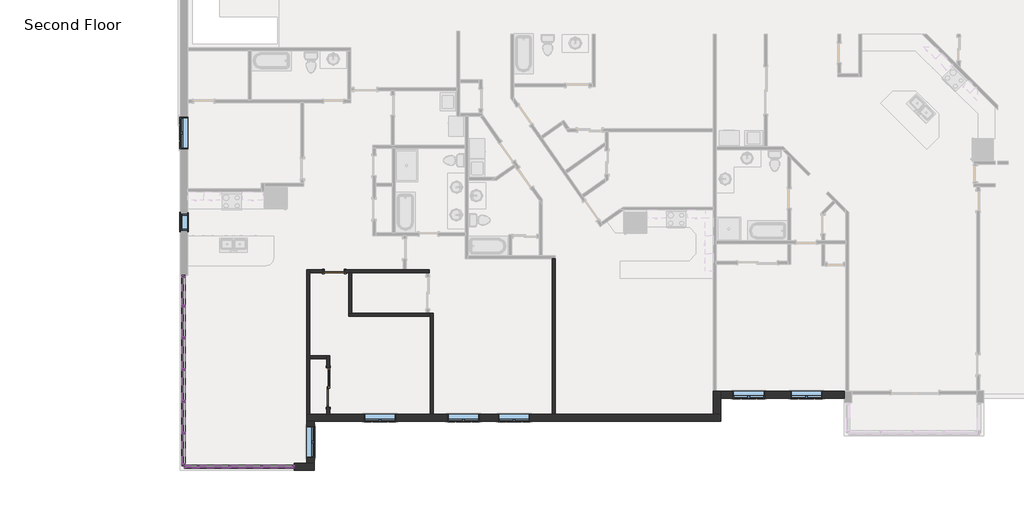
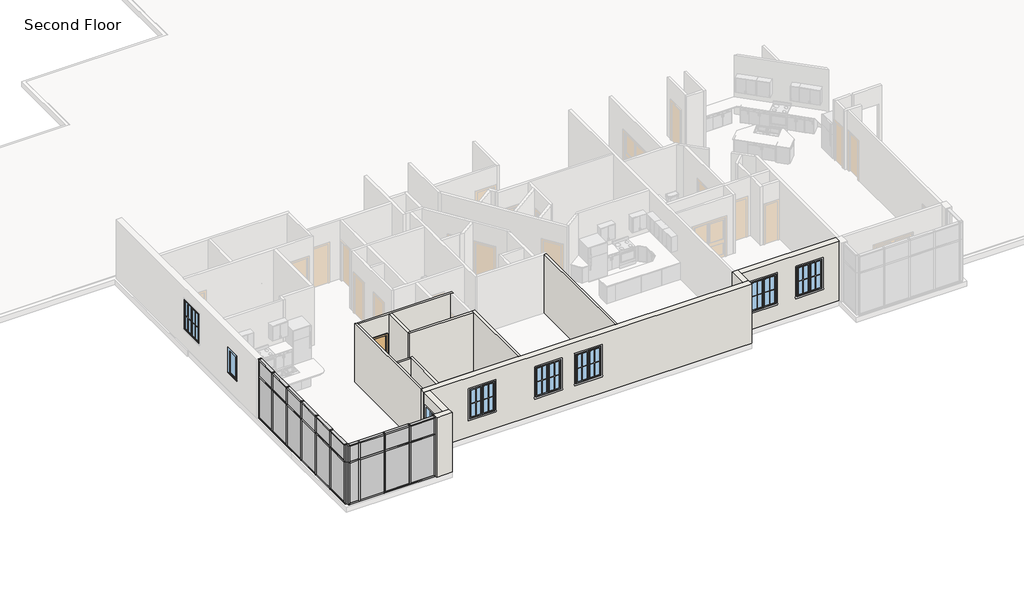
# One storey, part 1 of 17: 54 members, 20 plates, 13 walls, 8 windows, 2 doors.
"""IFC4 building model written with IfcOpenShell, lengths in millimetres."""

from ifc_helpers import new_model, si_unit, frame, origin, place, context, project, spatial, polyline, outline, extrude, faceted_brep, transform, mapped, element, save
from components import door_f2b275c1, door_2e7ec8be, rectangular_mullion_rectangular_mullion_1_c1bf3533, rectangular_mullion_rectangular_mullion_1_fa3625a1, rectangular_mullion_rectangular_mullion_1_a50b3cda, rectangular_mullion_rectangular_mullion_1_5cd4c5ac, rectangular_mullion_rectangular_mullion_1_7cbf0b94, rectangular_mullion_rectangular_mullion_1_1da01dff, rectangular_mullion_rectangular_mullion_1_6186cc23, rectangular_mullion_rectangular_mullion_1_049a2e78, rectangular_mullion_rectangular_mullion_1_fcad50a8, rectangular_mullion_rectangular_mullion_1_aa096312, system_panel_glazed_53e6f9fb, system_panel_glazed_0e039939, system_panel_glazed_cb820e14, system_panel_glazed_5b288161, system_panel_glazed_f20beefc, system_panel_glazed_097fd36c, window_b85827b5, window_33528cc2

model = new_model("IFC4")

# Units and contexts
model_context = context("Model", 3, world=origin())
ifc_project = project(units=[si_unit("LENGTHUNIT", "METRE", prefix="MILLI")], contexts=[model_context])

# Site, building, storey
site = spatial("IfcSite", under=ifc_project)
building = spatial("IfcBuilding", under=site)
storey = spatial("IfcBuildingStorey", under=building, Name="Second Floor", Elevation=3048.0)

# Doors
placement = place(None, origin())
door_shape = door_f2b275c1(model_context)
element("IfcDoor", 1, ObjectType="Single-Flush : 30\" x 80\"", at=placement, inside=storey, context=model_context, shape_type="MappedRepresentation", body=[
    mapped(door_shape, transform((12807.779723, -13829.1071807, 3048.0), x_axis=(1.0, 0.0, 0.0), y_axis=(0.0, 1.0, 0.0), z_axis=(0.0, 0.0, 1.0))),
])
door_2_shape = door_2e7ec8be(model_context)
element("IfcDoor", 2, ObjectType="Sliding-Closet : 60\" x 80\"", at=placement, inside=storey, context=model_context, shape_type="MappedRepresentation", body=[
    mapped(door_2_shape, transform((12448.2103704, -18291.1858961, 3048.0), x_axis=(0.0, -1.0, 0.0), y_axis=(1.0, 0.0, 0.0), z_axis=(0.0, 0.0, 1.0))),
])

# Members
rectangular_mullion_rectangular_mullion_1_shape = rectangular_mullion_rectangular_mullion_1_c1bf3533(model_context)
element("IfcMember", 3, ObjectType="Rectangular Mullion : Rectangular Mullion 1", at=placement, inside=storey, context=model_context, shape_type="MappedRepresentation", body=[
    mapped(rectangular_mullion_rectangular_mullion_1_shape, transform((7097.5509633, -21333.0996067, 6096.0), x_axis=(0.0, 0.0, 1.0), y_axis=(0.0, 1.0, 0.0), z_axis=(-1.0, 0.0, 0.0))),
])
rectangular_mullion_rectangular_mullion_1_2_shape = rectangular_mullion_rectangular_mullion_1_fa3625a1(model_context)
element("IfcMember", 4, ObjectType="Rectangular Mullion : Rectangular Mullion 1", at=placement, inside=storey, context=model_context, shape_type="MappedRepresentation", body=[
    mapped(rectangular_mullion_rectangular_mullion_1_2_shape, transform((10056.650963, -21333.0996067, 6096.0), x_axis=(0.0, 0.0, 1.0), y_axis=(0.0, 1.0, 0.0), z_axis=(-1.0, 0.0, 0.0))),
])
element("IfcMember", 5, ObjectType="Rectangular Mullion : Rectangular Mullion 1", at=placement, inside=storey, context=model_context, shape_type="MappedRepresentation", body=[
    mapped(rectangular_mullion_rectangular_mullion_1_2_shape, transform((8837.450963, -21333.0996067, 6096.0), x_axis=(0.0, 0.0, 1.0), y_axis=(0.0, 1.0, 0.0), z_axis=(-1.0, 0.0, 0.0))),
])
element("IfcMember", 6, ObjectType="Rectangular Mullion : Rectangular Mullion 1", at=placement, inside=storey, context=model_context, shape_type="MappedRepresentation", body=[
    mapped(rectangular_mullion_rectangular_mullion_1_2_shape, transform((7618.250963, -21333.0996067, 6096.0), x_axis=(0.0, 0.0, 1.0), y_axis=(0.0, 1.0, 0.0), z_axis=(-1.0, 0.0, 0.0))),
])
element("IfcMember", 7, ObjectType="Rectangular Mullion : Rectangular Mullion 1", at=placement, inside=storey, context=model_context, shape_type="MappedRepresentation", body=[
    mapped(rectangular_mullion_rectangular_mullion_1_2_shape, transform((7015.0009633, -20069.4496064, 6096.0), x_axis=(0.0, 0.0, 1.0), y_axis=(1.0, 0.0, 0.0), z_axis=(0.0, 1.0, 0.0))),
])
element("IfcMember", 8, ObjectType="Rectangular Mullion : Rectangular Mullion 1", at=placement, inside=storey, context=model_context, shape_type="MappedRepresentation", body=[
    mapped(rectangular_mullion_rectangular_mullion_1_2_shape, transform((7015.0009633, -18850.2496064, 6096.0), x_axis=(0.0, 0.0, 1.0), y_axis=(1.0, 0.0, 0.0), z_axis=(0.0, 1.0, 0.0))),
])
element("IfcMember", 9, ObjectType="Rectangular Mullion : Rectangular Mullion 1", at=placement, inside=storey, context=model_context, shape_type="MappedRepresentation", body=[
    mapped(rectangular_mullion_rectangular_mullion_1_2_shape, transform((7015.0009633, -17631.0496064, 6096.0), x_axis=(0.0, 0.0, 1.0), y_axis=(1.0, 0.0, 0.0), z_axis=(0.0, 1.0, 0.0))),
])
element("IfcMember", 10, ObjectType="Rectangular Mullion : Rectangular Mullion 1", at=placement, inside=storey, context=model_context, shape_type="MappedRepresentation", body=[
    mapped(rectangular_mullion_rectangular_mullion_1_2_shape, transform((7015.0009633, -16411.8496064, 6096.0), x_axis=(0.0, 0.0, 1.0), y_axis=(1.0, 0.0, 0.0), z_axis=(0.0, 1.0, 0.0))),
])
element("IfcMember", 11, ObjectType="Rectangular Mullion : Rectangular Mullion 1", at=placement, inside=storey, context=model_context, shape_type="MappedRepresentation", body=[
    mapped(rectangular_mullion_rectangular_mullion_1_2_shape, transform((7015.0009633, -15192.6496064, 6096.0), x_axis=(0.0, 0.0, 1.0), y_axis=(1.0, 0.0, 0.0), z_axis=(0.0, 1.0, 0.0))),
])
element("IfcMember", 12, ObjectType="Rectangular Mullion : Rectangular Mullion 1", at=placement, inside=storey, context=model_context, shape_type="MappedRepresentation", body=[
    mapped(rectangular_mullion_rectangular_mullion_1_2_shape, transform((11212.3509633, -21333.0996067, 3048.0), x_axis=(0.0, 0.0, -1.0), y_axis=(0.0, 1.0, 0.0), z_axis=(1.0, 0.0, 0.0))),
])
element("IfcMember", 13, ObjectType="Rectangular Mullion : Rectangular Mullion 1", at=placement, inside=storey, context=model_context, shape_type="MappedRepresentation", body=[
    mapped(rectangular_mullion_rectangular_mullion_1_2_shape, transform((9993.150963, -21333.0996067, 3048.0), x_axis=(0.0, 0.0, -1.0), y_axis=(0.0, 1.0, 0.0), z_axis=(1.0, 0.0, 0.0))),
])
element("IfcMember", 14, ObjectType="Rectangular Mullion : Rectangular Mullion 1", at=placement, inside=storey, context=model_context, shape_type="MappedRepresentation", body=[
    mapped(rectangular_mullion_rectangular_mullion_1_2_shape, transform((8773.950963, -21333.0996067, 3048.0), x_axis=(0.0, 0.0, -1.0), y_axis=(0.0, 1.0, 0.0), z_axis=(1.0, 0.0, 0.0))),
])
element("IfcMember", 15, ObjectType="Rectangular Mullion : Rectangular Mullion 1", at=placement, inside=storey, context=model_context, shape_type="MappedRepresentation", body=[
    mapped(rectangular_mullion_rectangular_mullion_1_2_shape, transform((7015.0009633, -21225.1496067, 3048.0), x_axis=(0.0, 0.0, -1.0), y_axis=(1.0, 0.0, 0.0), z_axis=(0.0, -1.0, 0.0))),
])
element("IfcMember", 16, ObjectType="Rectangular Mullion : Rectangular Mullion 1", at=placement, inside=storey, context=model_context, shape_type="MappedRepresentation", body=[
    mapped(rectangular_mullion_rectangular_mullion_1_2_shape, transform((7015.0009633, -20005.9496064, 3048.0), x_axis=(0.0, 0.0, -1.0), y_axis=(1.0, 0.0, 0.0), z_axis=(0.0, -1.0, 0.0))),
])
element("IfcMember", 17, ObjectType="Rectangular Mullion : Rectangular Mullion 1", at=placement, inside=storey, context=model_context, shape_type="MappedRepresentation", body=[
    mapped(rectangular_mullion_rectangular_mullion_1_2_shape, transform((7015.0009633, -18786.7496064, 3048.0), x_axis=(0.0, 0.0, -1.0), y_axis=(1.0, 0.0, 0.0), z_axis=(0.0, -1.0, 0.0))),
])
element("IfcMember", 18, ObjectType="Rectangular Mullion : Rectangular Mullion 1", at=placement, inside=storey, context=model_context, shape_type="MappedRepresentation", body=[
    mapped(rectangular_mullion_rectangular_mullion_1_2_shape, transform((7015.0009633, -17567.5496064, 3048.0), x_axis=(0.0, 0.0, -1.0), y_axis=(1.0, 0.0, 0.0), z_axis=(0.0, -1.0, 0.0))),
])
element("IfcMember", 19, ObjectType="Rectangular Mullion : Rectangular Mullion 1", at=placement, inside=storey, context=model_context, shape_type="MappedRepresentation", body=[
    mapped(rectangular_mullion_rectangular_mullion_1_2_shape, transform((7015.0009633, -16348.3496064, 3048.0), x_axis=(0.0, 0.0, -1.0), y_axis=(1.0, 0.0, 0.0), z_axis=(0.0, -1.0, 0.0))),
])
element("IfcMember", 20, ObjectType="Rectangular Mullion : Rectangular Mullion 1", at=placement, inside=storey, context=model_context, shape_type="MappedRepresentation", body=[
    mapped(rectangular_mullion_rectangular_mullion_1_shape, transform((7554.750963, -21333.0996067, 3048.0), x_axis=(0.0, 0.0, -1.0), y_axis=(0.0, 1.0, 0.0), z_axis=(1.0, 0.0, 0.0))),
])
rectangular_mullion_rectangular_mullion_1_3_shape = rectangular_mullion_rectangular_mullion_1_a50b3cda(model_context)
element("IfcMember", 21, ObjectType="Rectangular Mullion : Rectangular Mullion 1", at=placement, inside=storey, context=model_context, shape_type="MappedRepresentation", body=[
    mapped(rectangular_mullion_rectangular_mullion_1_3_shape, transform((7034.0509633, -21333.0996067, 3048.0), x_axis=(-1.0, 0.0, 0.0), y_axis=(0.0, 1.0, 0.0), z_axis=(0.0, 0.0, -1.0))),
])
element("IfcMember", 22, ObjectType="Rectangular Mullion : Rectangular Mullion 1", at=placement, inside=storey, context=model_context, shape_type="MappedRepresentation", body=[
    mapped(rectangular_mullion_rectangular_mullion_1_3_shape, transform((7015.0009633, -13981.3871067, 3048.0), x_axis=(0.0, 1.0, 0.0), y_axis=(1.0, 0.0, 0.0), z_axis=(0.0, 0.0, -1.0))),
])
rectangular_mullion_rectangular_mullion_1_4_shape = rectangular_mullion_rectangular_mullion_1_5cd4c5ac(model_context)
element("IfcMember", 23, ObjectType="Rectangular Mullion : Rectangular Mullion 1", at=placement, inside=storey, context=model_context, shape_type="MappedRepresentation", body=[
    mapped(rectangular_mullion_rectangular_mullion_1_4_shape, transform((7034.0509633, -21333.0996067, 5213.35), x_axis=(-1.0, 0.0, 0.0), y_axis=(0.0, 1.0, 0.0), z_axis=(0.0, 0.0, -1.0))),
])
element("IfcMember", 24, ObjectType="Rectangular Mullion : Rectangular Mullion 1", at=placement, inside=storey, context=model_context, shape_type="MappedRepresentation", body=[
    mapped(rectangular_mullion_rectangular_mullion_1_4_shape, transform((7015.0009633, -13981.3871067, 5213.35), x_axis=(0.0, 1.0, 0.0), y_axis=(1.0, 0.0, 0.0), z_axis=(0.0, 0.0, -1.0))),
])
element("IfcMember", 25, ObjectType="Rectangular Mullion : Rectangular Mullion 1", at=placement, inside=storey, context=model_context, shape_type="MappedRepresentation", body=[
    mapped(rectangular_mullion_rectangular_mullion_1_4_shape, transform((11275.8509633, -21333.0996067, 6096.0), x_axis=(1.0, 0.0, 0.0), y_axis=(0.0, 1.0, 0.0), z_axis=(0.0, 0.0, 1.0))),
])
element("IfcMember", 26, ObjectType="Rectangular Mullion : Rectangular Mullion 1", at=placement, inside=storey, context=model_context, shape_type="MappedRepresentation", body=[
    mapped(rectangular_mullion_rectangular_mullion_1_4_shape, transform((7015.0009633, -21288.6496067, 6096.0), x_axis=(0.0, -1.0, 0.0), y_axis=(1.0, 0.0, 0.0), z_axis=(0.0, 0.0, 1.0))),
])
element("IfcMember", 27, ObjectType="Rectangular Mullion : Rectangular Mullion 1", at=placement, inside=storey, context=model_context, shape_type="MappedRepresentation", body=[
    mapped(rectangular_mullion_rectangular_mullion_1_3_shape, transform((11275.8509633, -21333.0996067, 5213.35), x_axis=(1.0, 0.0, 0.0), y_axis=(0.0, 1.0, 0.0), z_axis=(0.0, 0.0, 1.0))),
])
element("IfcMember", 28, ObjectType="Rectangular Mullion : Rectangular Mullion 1", at=placement, inside=storey, context=model_context, shape_type="MappedRepresentation", body=[
    mapped(rectangular_mullion_rectangular_mullion_1_3_shape, transform((7015.0009633, -21288.6496067, 5213.35), x_axis=(0.0, -1.0, 0.0), y_axis=(1.0, 0.0, 0.0), z_axis=(0.0, 0.0, 1.0))),
])
rectangular_mullion_rectangular_mullion_1_5_shape = rectangular_mullion_rectangular_mullion_1_7cbf0b94(model_context)
element("IfcMember", 29, ObjectType="Rectangular Mullion : Rectangular Mullion 1", at=placement, inside=storey, context=model_context, shape_type="MappedRepresentation", body=[
    mapped(rectangular_mullion_rectangular_mullion_1_5_shape, transform((10056.650963, -21333.0996067, 5213.35), x_axis=(0.0, 0.0, 1.0), y_axis=(0.0, 1.0, 0.0), z_axis=(-1.0, 0.0, 0.0))),
])
element("IfcMember", 30, ObjectType="Rectangular Mullion : Rectangular Mullion 1", at=placement, inside=storey, context=model_context, shape_type="MappedRepresentation", body=[
    mapped(rectangular_mullion_rectangular_mullion_1_5_shape, transform((8837.450963, -21333.0996067, 5213.35), x_axis=(0.0, 0.0, 1.0), y_axis=(0.0, 1.0, 0.0), z_axis=(-1.0, 0.0, 0.0))),
])
element("IfcMember", 31, ObjectType="Rectangular Mullion : Rectangular Mullion 1", at=placement, inside=storey, context=model_context, shape_type="MappedRepresentation", body=[
    mapped(rectangular_mullion_rectangular_mullion_1_5_shape, transform((7618.250963, -21333.0996067, 5213.35), x_axis=(0.0, 0.0, 1.0), y_axis=(0.0, 1.0, 0.0), z_axis=(-1.0, 0.0, 0.0))),
])
element("IfcMember", 32, ObjectType="Rectangular Mullion : Rectangular Mullion 1", at=placement, inside=storey, context=model_context, shape_type="MappedRepresentation", body=[
    mapped(rectangular_mullion_rectangular_mullion_1_5_shape, transform((7015.0009633, -20069.4496064, 5213.35), x_axis=(0.0, 0.0, 1.0), y_axis=(1.0, 0.0, 0.0), z_axis=(0.0, 1.0, 0.0))),
])
element("IfcMember", 33, ObjectType="Rectangular Mullion : Rectangular Mullion 1", at=placement, inside=storey, context=model_context, shape_type="MappedRepresentation", body=[
    mapped(rectangular_mullion_rectangular_mullion_1_5_shape, transform((7015.0009633, -18850.2496064, 5213.35), x_axis=(0.0, 0.0, 1.0), y_axis=(1.0, 0.0, 0.0), z_axis=(0.0, 1.0, 0.0))),
])
element("IfcMember", 34, ObjectType="Rectangular Mullion : Rectangular Mullion 1", at=placement, inside=storey, context=model_context, shape_type="MappedRepresentation", body=[
    mapped(rectangular_mullion_rectangular_mullion_1_5_shape, transform((7015.0009633, -17631.0496064, 5213.35), x_axis=(0.0, 0.0, 1.0), y_axis=(1.0, 0.0, 0.0), z_axis=(0.0, 1.0, 0.0))),
])
element("IfcMember", 35, ObjectType="Rectangular Mullion : Rectangular Mullion 1", at=placement, inside=storey, context=model_context, shape_type="MappedRepresentation", body=[
    mapped(rectangular_mullion_rectangular_mullion_1_5_shape, transform((7015.0009633, -16411.8496064, 5213.35), x_axis=(0.0, 0.0, 1.0), y_axis=(1.0, 0.0, 0.0), z_axis=(0.0, 1.0, 0.0))),
])
element("IfcMember", 36, ObjectType="Rectangular Mullion : Rectangular Mullion 1", at=placement, inside=storey, context=model_context, shape_type="MappedRepresentation", body=[
    mapped(rectangular_mullion_rectangular_mullion_1_5_shape, transform((7015.0009633, -15192.6496064, 5213.35), x_axis=(0.0, 0.0, 1.0), y_axis=(1.0, 0.0, 0.0), z_axis=(0.0, 1.0, 0.0))),
])
rectangular_mullion_rectangular_mullion_1_6_shape = rectangular_mullion_rectangular_mullion_1_1da01dff(model_context)
element("IfcMember", 37, ObjectType="Rectangular Mullion : Rectangular Mullion 1", at=placement, inside=storey, context=model_context, shape_type="MappedRepresentation", body=[
    mapped(rectangular_mullion_rectangular_mullion_1_6_shape, transform((7097.5509633, -21333.0996067, 5213.35), x_axis=(0.0, 0.0, 1.0), y_axis=(0.0, 1.0, 0.0), z_axis=(-1.0, 0.0, 0.0))),
])
rectangular_mullion_rectangular_mullion_1_7_shape = rectangular_mullion_rectangular_mullion_1_6186cc23(model_context)
element("IfcMember", 38, ObjectType="Rectangular Mullion : Rectangular Mullion 1", at=placement, inside=storey, context=model_context, shape_type="MappedRepresentation", body=[
    mapped(rectangular_mullion_rectangular_mullion_1_7_shape, transform((10024.900963, -21333.0996067, 3048.0), x_axis=(-1.0, 0.0, 0.0), y_axis=(0.0, 1.0, 0.0), z_axis=(0.0, 0.0, -1.0))),
])
element("IfcMember", 39, ObjectType="Rectangular Mullion : Rectangular Mullion 1", at=placement, inside=storey, context=model_context, shape_type="MappedRepresentation", body=[
    mapped(rectangular_mullion_rectangular_mullion_1_7_shape, transform((8805.700963, -21333.0996067, 3048.0), x_axis=(-1.0, 0.0, 0.0), y_axis=(0.0, 1.0, 0.0), z_axis=(0.0, 0.0, -1.0))),
])
element("IfcMember", 40, ObjectType="Rectangular Mullion : Rectangular Mullion 1", at=placement, inside=storey, context=model_context, shape_type="MappedRepresentation", body=[
    mapped(rectangular_mullion_rectangular_mullion_1_7_shape, transform((7586.500963, -21333.0996067, 3048.0), x_axis=(-1.0, 0.0, 0.0), y_axis=(0.0, 1.0, 0.0), z_axis=(0.0, 0.0, -1.0))),
])
element("IfcMember", 41, ObjectType="Rectangular Mullion : Rectangular Mullion 1", at=placement, inside=storey, context=model_context, shape_type="MappedRepresentation", body=[
    mapped(rectangular_mullion_rectangular_mullion_1_7_shape, transform((7015.0009633, -20037.6996064, 3048.0), x_axis=(0.0, 1.0, 0.0), y_axis=(1.0, 0.0, 0.0), z_axis=(0.0, 0.0, -1.0))),
])
element("IfcMember", 42, ObjectType="Rectangular Mullion : Rectangular Mullion 1", at=placement, inside=storey, context=model_context, shape_type="MappedRepresentation", body=[
    mapped(rectangular_mullion_rectangular_mullion_1_7_shape, transform((7015.0009633, -18818.4996064, 3048.0), x_axis=(0.0, 1.0, 0.0), y_axis=(1.0, 0.0, 0.0), z_axis=(0.0, 0.0, -1.0))),
])
element("IfcMember", 43, ObjectType="Rectangular Mullion : Rectangular Mullion 1", at=placement, inside=storey, context=model_context, shape_type="MappedRepresentation", body=[
    mapped(rectangular_mullion_rectangular_mullion_1_7_shape, transform((7015.0009633, -17599.2996064, 3048.0), x_axis=(0.0, 1.0, 0.0), y_axis=(1.0, 0.0, 0.0), z_axis=(0.0, 0.0, -1.0))),
])
element("IfcMember", 44, ObjectType="Rectangular Mullion : Rectangular Mullion 1", at=placement, inside=storey, context=model_context, shape_type="MappedRepresentation", body=[
    mapped(rectangular_mullion_rectangular_mullion_1_7_shape, transform((7015.0009633, -16380.0996064, 3048.0), x_axis=(0.0, 1.0, 0.0), y_axis=(1.0, 0.0, 0.0), z_axis=(0.0, 0.0, -1.0))),
])
element("IfcMember", 45, ObjectType="Rectangular Mullion : Rectangular Mullion 1", at=placement, inside=storey, context=model_context, shape_type="MappedRepresentation", body=[
    mapped(rectangular_mullion_rectangular_mullion_1_7_shape, transform((7015.0009633, -15160.8996064, 3048.0), x_axis=(0.0, 1.0, 0.0), y_axis=(1.0, 0.0, 0.0), z_axis=(0.0, 0.0, -1.0))),
])
rectangular_mullion_rectangular_mullion_1_8_shape = rectangular_mullion_rectangular_mullion_1_049a2e78(model_context)
element("IfcMember", 46, ObjectType="Rectangular Mullion : Rectangular Mullion 1", at=placement, inside=storey, context=model_context, shape_type="MappedRepresentation", body=[
    mapped(rectangular_mullion_rectangular_mullion_1_8_shape, transform((10024.900963, -21333.0996067, 5213.35), x_axis=(-1.0, 0.0, 0.0), y_axis=(0.0, 1.0, 0.0), z_axis=(0.0, 0.0, -1.0))),
])
element("IfcMember", 47, ObjectType="Rectangular Mullion : Rectangular Mullion 1", at=placement, inside=storey, context=model_context, shape_type="MappedRepresentation", body=[
    mapped(rectangular_mullion_rectangular_mullion_1_8_shape, transform((8805.700963, -21333.0996067, 5213.35), x_axis=(-1.0, 0.0, 0.0), y_axis=(0.0, 1.0, 0.0), z_axis=(0.0, 0.0, -1.0))),
])
element("IfcMember", 48, ObjectType="Rectangular Mullion : Rectangular Mullion 1", at=placement, inside=storey, context=model_context, shape_type="MappedRepresentation", body=[
    mapped(rectangular_mullion_rectangular_mullion_1_8_shape, transform((7586.500963, -21333.0996067, 5213.35), x_axis=(-1.0, 0.0, 0.0), y_axis=(0.0, 1.0, 0.0), z_axis=(0.0, 0.0, -1.0))),
])
element("IfcMember", 49, ObjectType="Rectangular Mullion : Rectangular Mullion 1", at=placement, inside=storey, context=model_context, shape_type="MappedRepresentation", body=[
    mapped(rectangular_mullion_rectangular_mullion_1_8_shape, transform((7015.0009633, -20037.6996064, 5213.35), x_axis=(0.0, 1.0, 0.0), y_axis=(1.0, 0.0, 0.0), z_axis=(0.0, 0.0, -1.0))),
])
element("IfcMember", 50, ObjectType="Rectangular Mullion : Rectangular Mullion 1", at=placement, inside=storey, context=model_context, shape_type="MappedRepresentation", body=[
    mapped(rectangular_mullion_rectangular_mullion_1_8_shape, transform((7015.0009633, -18818.4996064, 5213.35), x_axis=(0.0, 1.0, 0.0), y_axis=(1.0, 0.0, 0.0), z_axis=(0.0, 0.0, -1.0))),
])
element("IfcMember", 51, ObjectType="Rectangular Mullion : Rectangular Mullion 1", at=placement, inside=storey, context=model_context, shape_type="MappedRepresentation", body=[
    mapped(rectangular_mullion_rectangular_mullion_1_8_shape, transform((7015.0009633, -17599.2996064, 5213.35), x_axis=(0.0, 1.0, 0.0), y_axis=(1.0, 0.0, 0.0), z_axis=(0.0, 0.0, -1.0))),
])
element("IfcMember", 52, ObjectType="Rectangular Mullion : Rectangular Mullion 1", at=placement, inside=storey, context=model_context, shape_type="MappedRepresentation", body=[
    mapped(rectangular_mullion_rectangular_mullion_1_8_shape, transform((7015.0009633, -16380.0996064, 5213.35), x_axis=(0.0, 1.0, 0.0), y_axis=(1.0, 0.0, 0.0), z_axis=(0.0, 0.0, -1.0))),
])
element("IfcMember", 53, ObjectType="Rectangular Mullion : Rectangular Mullion 1", at=placement, inside=storey, context=model_context, shape_type="MappedRepresentation", body=[
    mapped(rectangular_mullion_rectangular_mullion_1_8_shape, transform((7015.0009633, -15160.8996064, 5213.35), x_axis=(0.0, 1.0, 0.0), y_axis=(1.0, 0.0, 0.0), z_axis=(0.0, 0.0, -1.0))),
])
rectangular_mullion_rectangular_mullion_1_9_shape = rectangular_mullion_rectangular_mullion_1_fcad50a8(model_context)
element("IfcMember", 54, ObjectType="Rectangular Mullion : Rectangular Mullion 1", at=placement, inside=storey, context=model_context, shape_type="MappedRepresentation", body=[
    mapped(rectangular_mullion_rectangular_mullion_1_9_shape, transform((7015.0009633, -14044.8871067, 6096.0), x_axis=(0.0, 0.0, 1.0), y_axis=(1.0, 0.0, 0.0), z_axis=(0.0, 1.0, 0.0))),
])
element("IfcMember", 55, ObjectType="Rectangular Mullion : Rectangular Mullion 1", at=placement, inside=storey, context=model_context, shape_type="MappedRepresentation", body=[
    mapped(rectangular_mullion_rectangular_mullion_1_9_shape, transform((7015.0009633, -15129.1496064, 3048.0), x_axis=(0.0, 0.0, -1.0), y_axis=(1.0, 0.0, 0.0), z_axis=(0.0, -1.0, 0.0))),
])
rectangular_mullion_rectangular_mullion_1_10_shape = rectangular_mullion_rectangular_mullion_1_aa096312(model_context)
element("IfcMember", 56, ObjectType="Rectangular Mullion : Rectangular Mullion 1", at=placement, inside=storey, context=model_context, shape_type="MappedRepresentation", body=[
    mapped(rectangular_mullion_rectangular_mullion_1_10_shape, transform((7015.0009633, -14044.8871067, 5213.35), x_axis=(0.0, 0.0, 1.0), y_axis=(1.0, 0.0, 0.0), z_axis=(0.0, 1.0, 0.0))),
])

# Plates
system_panel_glazed_shape = system_panel_glazed_53e6f9fb(model_context)
element("IfcPlate", 57, ObjectType="System Panel : Glazed", at=placement, inside=storey, context=model_context, shape_type="MappedRepresentation", body=[
    mapped(system_panel_glazed_shape, transform((10634.5009632, -21333.0996067, 3111.5), x_axis=(-1.0, 0.0, 0.0), y_axis=(0.0, -1.0, 0.0), z_axis=(0.0, 0.0, 1.0))),
])
element("IfcPlate", 58, ObjectType="System Panel : Glazed", at=placement, inside=storey, context=model_context, shape_type="MappedRepresentation", body=[
    mapped(system_panel_glazed_shape, transform((7015.0009633, -20647.2996066, 3111.5), x_axis=(0.0, 1.0, 0.0), y_axis=(-1.0, 0.0, 0.0), z_axis=(0.0, 0.0, 1.0))),
])
element("IfcPlate", 59, ObjectType="System Panel : Glazed", at=placement, inside=storey, context=model_context, shape_type="MappedRepresentation", body=[
    mapped(system_panel_glazed_shape, transform((9415.300963, -21333.0996067, 3111.5), x_axis=(-1.0, 0.0, 0.0), y_axis=(0.0, -1.0, 0.0), z_axis=(0.0, 0.0, 1.0))),
])
element("IfcPlate", 60, ObjectType="System Panel : Glazed", at=placement, inside=storey, context=model_context, shape_type="MappedRepresentation", body=[
    mapped(system_panel_glazed_shape, transform((8196.100963, -21333.0996067, 3111.5), x_axis=(-1.0, 0.0, 0.0), y_axis=(0.0, -1.0, 0.0), z_axis=(0.0, 0.0, 1.0))),
])
element("IfcPlate", 61, ObjectType="System Panel : Glazed", at=placement, inside=storey, context=model_context, shape_type="MappedRepresentation", body=[
    mapped(system_panel_glazed_shape, transform((7015.0009633, -19428.0996064, 3111.5), x_axis=(0.0, 1.0, 0.0), y_axis=(-1.0, 0.0, 0.0), z_axis=(0.0, 0.0, 1.0))),
])
element("IfcPlate", 62, ObjectType="System Panel : Glazed", at=placement, inside=storey, context=model_context, shape_type="MappedRepresentation", body=[
    mapped(system_panel_glazed_shape, transform((7015.0009633, -18208.8996064, 3111.5), x_axis=(0.0, 1.0, 0.0), y_axis=(-1.0, 0.0, 0.0), z_axis=(0.0, 0.0, 1.0))),
])
element("IfcPlate", 63, ObjectType="System Panel : Glazed", at=placement, inside=storey, context=model_context, shape_type="MappedRepresentation", body=[
    mapped(system_panel_glazed_shape, transform((7015.0009633, -16989.6996064, 3111.5), x_axis=(0.0, 1.0, 0.0), y_axis=(-1.0, 0.0, 0.0), z_axis=(0.0, 0.0, 1.0))),
])
element("IfcPlate", 64, ObjectType="System Panel : Glazed", at=placement, inside=storey, context=model_context, shape_type="MappedRepresentation", body=[
    mapped(system_panel_glazed_shape, transform((7015.0009633, -15770.4996064, 3111.5), x_axis=(0.0, 1.0, 0.0), y_axis=(-1.0, 0.0, 0.0), z_axis=(0.0, 0.0, 1.0))),
])
system_panel_glazed_2_shape = system_panel_glazed_0e039939(model_context)
element("IfcPlate", 65, ObjectType="System Panel : Glazed", at=placement, inside=storey, context=model_context, shape_type="MappedRepresentation", body=[
    mapped(system_panel_glazed_2_shape, transform((7326.1509632, -21333.0996067, 3111.5), x_axis=(-1.0, 0.0, 0.0), y_axis=(0.0, -1.0, 0.0), z_axis=(0.0, 0.0, 1.0))),
])
system_panel_glazed_3_shape = system_panel_glazed_cb820e14(model_context)
element("IfcPlate", 66, ObjectType="System Panel : Glazed", at=placement, inside=storey, context=model_context, shape_type="MappedRepresentation", body=[
    mapped(system_panel_glazed_3_shape, transform((10634.5009632, -21333.0996067, 5245.1), x_axis=(-1.0, 0.0, 0.0), y_axis=(0.0, -1.0, 0.0), z_axis=(0.0, 0.0, 1.0))),
])
element("IfcPlate", 67, ObjectType="System Panel : Glazed", at=placement, inside=storey, context=model_context, shape_type="MappedRepresentation", body=[
    mapped(system_panel_glazed_3_shape, transform((9415.300963, -21333.0996067, 5245.1), x_axis=(-1.0, 0.0, 0.0), y_axis=(0.0, -1.0, 0.0), z_axis=(0.0, 0.0, 1.0))),
])
element("IfcPlate", 68, ObjectType="System Panel : Glazed", at=placement, inside=storey, context=model_context, shape_type="MappedRepresentation", body=[
    mapped(system_panel_glazed_3_shape, transform((8196.100963, -21333.0996067, 5245.1), x_axis=(-1.0, 0.0, 0.0), y_axis=(0.0, -1.0, 0.0), z_axis=(0.0, 0.0, 1.0))),
])
element("IfcPlate", 69, ObjectType="System Panel : Glazed", at=placement, inside=storey, context=model_context, shape_type="MappedRepresentation", body=[
    mapped(system_panel_glazed_3_shape, transform((7015.0009633, -20647.2996066, 5245.1), x_axis=(0.0, 1.0, 0.0), y_axis=(-1.0, 0.0, 0.0), z_axis=(0.0, 0.0, 1.0))),
])
element("IfcPlate", 70, ObjectType="System Panel : Glazed", at=placement, inside=storey, context=model_context, shape_type="MappedRepresentation", body=[
    mapped(system_panel_glazed_3_shape, transform((7015.0009633, -19428.0996064, 5245.1), x_axis=(0.0, 1.0, 0.0), y_axis=(-1.0, 0.0, 0.0), z_axis=(0.0, 0.0, 1.0))),
])
element("IfcPlate", 71, ObjectType="System Panel : Glazed", at=placement, inside=storey, context=model_context, shape_type="MappedRepresentation", body=[
    mapped(system_panel_glazed_3_shape, transform((7015.0009633, -18208.8996064, 5245.1), x_axis=(0.0, 1.0, 0.0), y_axis=(-1.0, 0.0, 0.0), z_axis=(0.0, 0.0, 1.0))),
])
element("IfcPlate", 72, ObjectType="System Panel : Glazed", at=placement, inside=storey, context=model_context, shape_type="MappedRepresentation", body=[
    mapped(system_panel_glazed_3_shape, transform((7015.0009633, -16989.6996064, 5245.1), x_axis=(0.0, 1.0, 0.0), y_axis=(-1.0, 0.0, 0.0), z_axis=(0.0, 0.0, 1.0))),
])
element("IfcPlate", 73, ObjectType="System Panel : Glazed", at=placement, inside=storey, context=model_context, shape_type="MappedRepresentation", body=[
    mapped(system_panel_glazed_3_shape, transform((7015.0009633, -15770.4996064, 5245.1), x_axis=(0.0, 1.0, 0.0), y_axis=(-1.0, 0.0, 0.0), z_axis=(0.0, 0.0, 1.0))),
])
system_panel_glazed_4_shape = system_panel_glazed_5b288161(model_context)
element("IfcPlate", 74, ObjectType="System Panel : Glazed", at=placement, inside=storey, context=model_context, shape_type="MappedRepresentation", body=[
    mapped(system_panel_glazed_4_shape, transform((7326.1509632, -21333.0996067, 5245.1), x_axis=(-1.0, 0.0, 0.0), y_axis=(0.0, -1.0, 0.0), z_axis=(0.0, 0.0, 1.0))),
])
system_panel_glazed_5_shape = system_panel_glazed_f20beefc(model_context)
element("IfcPlate", 75, ObjectType="System Panel : Glazed", at=placement, inside=storey, context=model_context, shape_type="MappedRepresentation", body=[
    mapped(system_panel_glazed_5_shape, transform((7015.0009633, -14587.0183566, 3111.5), x_axis=(0.0, 1.0, 0.0), y_axis=(-1.0, 0.0, 0.0), z_axis=(0.0, 0.0, 1.0))),
])
system_panel_glazed_6_shape = system_panel_glazed_097fd36c(model_context)
element("IfcPlate", 76, ObjectType="System Panel : Glazed", at=placement, inside=storey, context=model_context, shape_type="MappedRepresentation", body=[
    mapped(system_panel_glazed_6_shape, transform((7015.0009633, -14587.0183566, 5245.1), x_axis=(0.0, 1.0, 0.0), y_axis=(-1.0, 0.0, 0.0), z_axis=(0.0, 0.0, 1.0))),
])

# Walls
element("IfcWall", 77, ObjectType="Exterior - Brick on Wood Stud", at=placement, inside=storey, context=model_context, shape_type="Brep", body=[
    faceted_brep([(12033.0884633, -21191.8121067, 3048.0), (11750.5134633, -21191.8121067, 3048.0), (11275.8509633, -21191.8121067, 3048.0), (11275.8509633, -21191.8121067, 6096.0), (11750.5134633, -21191.8121067, 6096.0), (12033.0884633, -21191.8121067, 6096.0), (12033.0884633, -21474.3871067, 3048.0), (12033.0884633, -21474.3871067, 6096.0), (11275.8509633, -21474.3871067, 6096.0), (11275.8509633, -21474.3871067, 3048.0)], [[[0, 1, 2, 3, 4, 5]], [[6, 7, 8, 9]], [[2, 1, 0, 6, 9]], [[3, 2, 9, 8]], [[5, 4, 3, 8, 7]], [[0, 5, 7, 6]]]),
])
element("IfcWall", 78, ObjectType="Exterior - Brick on Wood Stud", at=placement, inside=storey, context=model_context, shape_type="Brep", body=[
    faceted_brep([(27656.3115862, -19313.2865506, 3048.0), (27373.7365862, -19313.2865506, 3048.0), (21299.9615862, -19313.2865506, 3048.0), (21185.6615862, -19313.2865506, 3048.0), (16611.410372, -19313.2865506, 3048.0), (16497.110372, -19313.2865506, 3048.0), (12632.3603704, -19313.2865506, 3048.0), (12518.0603704, -19313.2865506, 3048.0), (11864.8134633, -19313.2865506, 3048.0), (11750.5134633, -19313.2865506, 3048.0), (11750.5134633, -19313.2865506, 6096.0), (11864.8134633, -19313.2865506, 6096.0), (12518.0603704, -19313.2865506, 6096.0), (12632.3603704, -19313.2865506, 6096.0), (16497.110372, -19313.2865506, 6096.0), (16611.410372, -19313.2865506, 6096.0), (21185.6615862, -19313.2865506, 6096.0), (21299.9615862, -19313.2865506, 6096.0), (27373.7365862, -19313.2865506, 6096.0), (27656.3115862, -19313.2865506, 6096.0), (19109.2115862, -19313.2865506, 5486.4), (19109.2115862, -19313.2865506, 3962.4), (20328.4115862, -19313.2865506, 3962.4), (20328.4115862, -19313.2865506, 5486.4), (13955.1353712, -19313.2865506, 5486.4), (13955.1353712, -19313.2865506, 3962.4), (15174.3353712, -19313.2865506, 3962.4), (15174.3353712, -19313.2865506, 5486.4), (17163.860372, -19313.2865506, 5486.4), (17163.860372, -19313.2865506, 3962.4), (18383.060372, -19313.2865506, 3962.4), (18383.060372, -19313.2865506, 5486.4), (27656.3115862, -19595.8615506, 3048.0), (27656.3115862, -19595.8615506, 6096.0), (12033.0884633, -19595.8615506, 6096.0), (11750.5134633, -19595.8615506, 6096.0), (11750.5134633, -19595.8615506, 3048.0), (12033.0884633, -19595.8615506, 3048.0), (19109.2115862, -19595.8615506, 5486.4), (20328.4115862, -19595.8615506, 5486.4), (20328.4115862, -19595.8615506, 3962.4), (19109.2115862, -19595.8615506, 3962.4), (13955.1353712, -19595.8615506, 5486.4), (15174.3353712, -19595.8615506, 5486.4), (15174.3353712, -19595.8615506, 3962.4), (13955.1353712, -19595.8615506, 3962.4), (17163.860372, -19595.8615506, 5486.4), (18383.060372, -19595.8615506, 5486.4), (18383.060372, -19595.8615506, 3962.4), (17163.860372, -19595.8615506, 3962.4)], [[[0, 1, 2, 3, 4, 5, 6, 7, 8, 9, 10, 11, 12, 13, 14, 15, 16, 17, 18, 19], [20, 21, 22, 23], [24, 25, 26, 27], [28, 29, 30, 31]], [[32, 33, 34, 35, 36, 37], [38, 39, 40, 41], [42, 43, 44, 45], [46, 47, 48, 49]], [[21, 20, 38, 41]], [[22, 21, 41, 40]], [[23, 22, 40, 39]], [[20, 23, 39, 38]], [[25, 24, 42, 45]], [[26, 25, 45, 44]], [[27, 26, 44, 43]], [[24, 27, 43, 42]], [[29, 28, 46, 49]], [[30, 29, 49, 48]], [[31, 30, 48, 47]], [[28, 31, 47, 46]], [[9, 8, 7, 6, 5, 4, 3, 2, 1, 0, 32, 37, 36]], [[19, 18, 17, 16, 15, 14, 13, 12, 11, 10, 35, 34, 33]], [[0, 19, 33, 32]], [[10, 9, 36, 35]]]),
])
element("IfcWall", 79, ObjectType="Exterior - Brick on Wood Stud", at=placement, inside=storey, context=model_context, shape_type="Brep", body=[
    faceted_brep([(27656.3115862, -19313.2865506, 3048.0), (27656.3115862, -18708.8441587, 3048.0), (27656.3115862, -18426.2691587, 3048.0), (27656.3115862, -18426.2691587, 6096.0), (27656.3115862, -18708.8441587, 6096.0), (27656.3115862, -19313.2865506, 6096.0), (27373.7365862, -19313.2865506, 3048.0), (27373.7365862, -19313.2865506, 6096.0), (27373.7365862, -18426.2691587, 6096.0), (27373.7365862, -18426.2691587, 3048.0), (27488.0365862, -18426.2691587, 3048.0), (27488.0365862, -18426.2691587, 6096.0)], [[[0, 1, 2, 3, 4, 5]], [[6, 7, 8, 9]], [[2, 1, 0, 6, 9, 10]], [[5, 4, 3, 11, 8, 7]], [[3, 2, 10, 9, 8, 11]], [[0, 5, 7, 6]]]),
])
element("IfcWall", 80, ObjectType="Exterior - Brick on Wood Stud", at=placement, inside=storey, context=model_context, shape_type="SweptSolid", body=[
    extrude(outline(polyline([(-21191.8121067, 3048.0), (-21191.8121067, 6096.0), (-19595.8615506, 6096.0), (-19595.8615506, 3048.0), (-21191.8121067, 3048.0)]), holes=[polyline([(-20990.7368287, 5486.4), (-20990.7368287, 3962.4), (-19771.5368287, 3962.4), (-19771.5368287, 5486.4), (-20990.7368287, 5486.4)])]), frame((11750.5134633, 0.0, 0.0), z_axis=(1.0, 0.0, 0.0), x_axis=(0.0, 1.0, 0.0)), (0.0, 0.0, 1.0), 282.575),
])
element("IfcWall", 81, ObjectType="Exterior - Brick on Wood Stud", at=placement, inside=storey, context=model_context, shape_type="SweptSolid", body=[
    extrude(outline(polyline([(3048.0, 27656.3115862), (3048.0, 32412.3745389), (6096.0, 32412.3745389), (6096.0, 27656.3115862), (3048.0, 27656.3115862)]), holes=[polyline([(5486.4, 28124.6240862), (5486.4, 29343.8240862), (3962.4, 29343.8240862), (3962.4, 28124.6240862), (5486.4, 28124.6240862)]), polyline([(5486.4, 30343.8620389), (5486.4, 31563.0620389), (3962.4, 31563.0620389), (3962.4, 30343.8620389), (5486.4, 30343.8620389)])]), frame((0.0, -18708.8441587, 0.0), z_axis=(0.0, 1.0, 0.0), x_axis=(0.0, 0.0, 1.0)), (0.0, 0.0, 1.0), 282.575),
])
element("IfcWall", 82, ObjectType="Interior - 4 1/2\" Partition", at=placement, inside=storey, context=model_context, shape_type="SweptSolid", body=[
    extrude(outline(polyline([(21185.6615862, -19313.2865506), (21185.6615862, -13350.4704597), (21299.9615862, -13350.4704597), (21299.9615862, -19313.2865506), (21185.6615862, -19313.2865506)])), frame((0.0, 0.0, 3048.0), z_axis=(0.0, 0.0, 1.0), x_axis=(1.0, 0.0, 0.0)), (0.0, 0.0, 1.0), 3048.0),
])
element("IfcWall", 83, ObjectType="Interior - 4 1/2\" Partition", at=placement, inside=storey, context=model_context, shape_type="Brep", body=[
    faceted_brep([(16611.410372, -19313.2865506, 3048.0), (16611.410372, -15440.4282946, 3048.0), (16611.410372, -15440.4282946, 6096.0), (16611.410372, -19313.2865506, 6096.0), (16497.110372, -19313.2865506, 3048.0), (16497.110372, -19313.2865506, 6096.0), (16497.110372, -15554.7282946, 6096.0), (16497.110372, -15440.4282946, 6096.0), (16497.110372, -15440.4282946, 3048.0), (16497.110372, -15554.7282946, 3048.0)], [[[0, 1, 2, 3]], [[4, 5, 6, 7, 8, 9]], [[1, 0, 4, 9, 8]], [[3, 2, 7, 6, 5]], [[2, 1, 8, 7]], [[0, 3, 5, 4]]]),
])
element("IfcWall", 84, ObjectType="Interior - 4 1/2\" Partition", at=placement, inside=storey, context=model_context, shape_type="Brep", body=[
    faceted_brep([(16497.110372, -15440.4282946, 3048.0), (16459.010372, -15440.4282946, 3048.0), (16344.710372, -15440.4282946, 3048.0), (13474.529723, -15440.4282946, 3048.0), (13360.229723, -15440.4282946, 3048.0), (13360.229723, -15440.4282946, 6096.0), (13474.529723, -15440.4282946, 6096.0), (16344.710372, -15440.4282946, 6096.0), (16459.010372, -15440.4282946, 6096.0), (16497.110372, -15440.4282946, 6096.0), (16497.110372, -15554.7282946, 3048.0), (16497.110372, -15554.7282946, 6096.0), (13360.229723, -15554.7282946, 6096.0), (13360.229723, -15554.7282946, 3048.0)], [[[0, 1, 2, 3, 4, 5, 6, 7, 8, 9]], [[10, 11, 12, 13]], [[4, 3, 2, 1, 0, 10, 13]], [[9, 8, 7, 6, 5, 12, 11]], [[5, 4, 13, 12]], [[0, 9, 11, 10]]]),
])
element("IfcWall", 85, ObjectType="Interior - 4 1/2\" Partition", at=placement, inside=storey, context=model_context, shape_type="SweptSolid", body=[
    extrude(outline(polyline([(13474.529723, -13886.2571807), (13474.529723, -15440.4282946), (13360.229723, -15440.4282946), (13360.229723, -13886.2571807), (13474.529723, -13886.2571807)])), frame((0.0, 0.0, 3048.0), z_axis=(0.0, 0.0, 1.0), x_axis=(1.0, 0.0, 0.0)), (0.0, 0.0, 1.0), 3048.0),
])
element("IfcWall", 86, ObjectType="Interior - 4 1/2\" Partition", at=placement, inside=storey, context=model_context, shape_type="Brep", body=[
    faceted_brep([(11864.8134633, -19313.2865506, 3048.0), (11864.8134633, -17184.9477416, 3048.0), (11864.8134633, -17070.6477416, 3048.0), (11864.8134633, -13886.2571807, 3048.0), (11864.8134633, -13771.9571807, 3048.0), (11864.8134633, -13771.9571807, 6096.0), (11864.8134633, -13886.2571807, 6096.0), (11864.8134633, -17070.6477416, 6096.0), (11864.8134633, -17184.9477416, 6096.0), (11864.8134633, -19313.2865506, 6096.0), (11750.5134633, -19313.2865506, 3048.0), (11750.5134633, -19313.2865506, 6096.0), (11750.5134633, -13771.9571807, 6096.0), (11750.5134633, -13771.9571807, 3048.0)], [[[0, 1, 2, 3, 4, 5, 6, 7, 8, 9]], [[10, 11, 12, 13]], [[4, 3, 2, 1, 0, 10, 13]], [[9, 8, 7, 6, 5, 12, 11]], [[5, 4, 13, 12]], [[0, 9, 11, 10]]]),
])
element("IfcWall", 87, ObjectType="Interior - 4 1/2\" Partition", at=placement, inside=storey, context=model_context, shape_type="Brep", body=[
    faceted_brep([(13188.779723, -13886.2571807, 5080.0), (13188.779723, -13886.2571807, 3048.0), (13360.229723, -13886.2571807, 3048.0), (13474.529723, -13886.2571807, 3048.0), (16344.710372, -13886.2571807, 3048.0), (16459.010372, -13886.2571807, 3048.0), (16459.010372, -13886.2571807, 6096.0), (16344.710372, -13886.2571807, 6096.0), (13474.529723, -13886.2571807, 6096.0), (13360.229723, -13886.2571807, 6096.0), (11864.8134633, -13886.2571807, 6096.0), (11864.8134633, -13886.2571807, 3048.0), (12426.779723, -13886.2571807, 3048.0), (12426.779723, -13886.2571807, 5080.0), (16459.010372, -13771.9571807, 3048.0), (15565.678371, -13771.9571807, 3048.0), (15451.378371, -13771.9571807, 3048.0), (13188.779723, -13771.9571807, 3048.0), (13188.779723, -13771.9571807, 5080.0), (12426.779723, -13771.9571807, 5080.0), (12426.779723, -13771.9571807, 3048.0), (11864.8134633, -13771.9571807, 3048.0), (11864.8134633, -13771.9571807, 6096.0), (15451.378371, -13771.9571807, 6096.0), (15565.678371, -13771.9571807, 6096.0), (16459.010372, -13771.9571807, 6096.0)], [[[0, 1, 2, 3, 4, 5, 6, 7, 8, 9, 10, 11, 12, 13]], [[14, 15, 16, 17, 18, 19, 20, 21, 22, 23, 24, 25]], [[12, 11, 21, 20]], [[5, 4, 3, 2, 1, 17, 16, 15, 14]], [[10, 9, 8, 7, 6, 25, 24, 23, 22]], [[18, 17, 1, 0]], [[19, 18, 0, 13]], [[20, 19, 13, 12]], [[6, 5, 14, 25]], [[11, 10, 22, 21]]]),
])
element("IfcWall", 88, ObjectType="Interior - 4 1/2\" Partition", at=placement, inside=storey, context=model_context, shape_type="Brep", body=[
    faceted_brep([(12632.3603704, -19313.2865506, 3048.0), (12632.3603704, -19053.1858961, 3048.0), (12632.3603704, -19053.1858961, 5080.0), (12632.3603704, -17529.1858961, 5080.0), (12632.3603704, -17529.1858961, 3048.0), (12632.3603704, -17070.6477416, 3048.0), (12632.3603704, -17070.6477416, 6096.0), (12632.3603704, -19313.2865506, 6096.0), (12518.0603704, -19053.1858961, 5080.0), (12518.0603704, -19053.1858961, 3048.0), (12518.0603704, -19313.2865506, 3048.0), (12518.0603704, -19313.2865506, 6096.0), (12518.0603704, -17184.9477416, 6096.0), (12518.0603704, -17070.6477416, 6096.0), (12518.0603704, -17070.6477416, 3048.0), (12518.0603704, -17184.9477416, 3048.0), (12518.0603704, -17529.1858961, 3048.0), (12518.0603704, -17529.1858961, 5080.0)], [[[0, 1, 2, 3, 4, 5, 6, 7]], [[8, 9, 10, 11, 12, 13, 14, 15, 16, 17]], [[10, 9, 1, 0]], [[16, 15, 14, 5, 4]], [[7, 6, 13, 12, 11]], [[4, 3, 17, 16]], [[2, 1, 9, 8]], [[3, 2, 8, 17]], [[6, 5, 14, 13]], [[0, 7, 11, 10]]]),
])
element("IfcWall", 89, ObjectType="Interior - 4 1/2\" Partition", at=placement, inside=storey, context=model_context, shape_type="SweptSolid", body=[
    extrude(outline(polyline([(11864.8134633, -17070.6477416), (12518.0603704, -17070.6477416), (12518.0603704, -17184.9477416), (11864.8134633, -17184.9477416), (11864.8134633, -17070.6477416)])), frame((0.0, 0.0, 3048.0), z_axis=(0.0, 0.0, 1.0), x_axis=(1.0, 0.0, 0.0)), (0.0, 0.0, 1.0), 3048.0),
])

# Windows
window_shape = window_b85827b5(model_context)
element("IfcWindow", 90, ObjectType="Fixed with Trim : 24\" x 48\"", at=placement, inside=storey, context=model_context, shape_type="MappedRepresentation", body=[
    mapped(window_shape, transform((7029.0581159, -11899.0493344, 3048.0), x_axis=(0.0, 1.0, 0.0), y_axis=(-1.0, 0.0, 0.0), z_axis=(0.0, 0.0, 1.0))),
])
window_2_shape = window_33528cc2(model_context)
element("IfcWindow", 91, ObjectType="Window-Casement-Double : 48\" x 60\"", at=placement, inside=storey, context=model_context, shape_type="MappedRepresentation", body=[
    mapped(window_2_shape, transform((7029.0581159, -8512.9212391, 3048.0), x_axis=(0.0, 1.0, 0.0), y_axis=(-1.0, 0.0, 0.0), z_axis=(0.0, 0.0, 1.0))),
])
element("IfcWindow", 92, ObjectType="Window-Casement-Double : 48\" x 60\"", at=placement, inside=storey, context=model_context, shape_type="MappedRepresentation", body=[
    mapped(window_2_shape, transform((19718.8115862, -19454.5740506, 3048.0), x_axis=(-1.0, 0.0, 0.0), y_axis=(0.0, -1.0, 0.0), z_axis=(0.0, 0.0, 1.0))),
])
element("IfcWindow", 93, ObjectType="Window-Casement-Double : 48\" x 60\"", at=placement, inside=storey, context=model_context, shape_type="MappedRepresentation", body=[
    mapped(window_2_shape, transform((14564.7353712, -19454.5740506, 3048.0), x_axis=(-1.0, 0.0, 0.0), y_axis=(0.0, -1.0, 0.0), z_axis=(0.0, 0.0, 1.0))),
])
element("IfcWindow", 94, ObjectType="Window-Casement-Double : 48\" x 60\"", at=placement, inside=storey, context=model_context, shape_type="MappedRepresentation", body=[
    mapped(window_2_shape, transform((28734.2240862, -18567.5566587, 3048.0), x_axis=(-1.0, 0.0, 0.0), y_axis=(0.0, -1.0, 0.0), z_axis=(0.0, 0.0, 1.0))),
])
element("IfcWindow", 95, ObjectType="Window-Casement-Double : 48\" x 60\"", at=placement, inside=storey, context=model_context, shape_type="MappedRepresentation", body=[
    mapped(window_2_shape, transform((30953.4620389, -18567.5566587, 3048.0), x_axis=(-1.0, 0.0, 0.0), y_axis=(0.0, -1.0, 0.0), z_axis=(0.0, 0.0, 1.0))),
])
element("IfcWindow", 96, ObjectType="Window-Casement-Double : 48\" x 60\"", at=placement, inside=storey, context=model_context, shape_type="MappedRepresentation", body=[
    mapped(window_2_shape, transform((17773.460372, -19454.5740506, 3048.0), x_axis=(-1.0, 0.0, 0.0), y_axis=(0.0, -1.0, 0.0), z_axis=(0.0, 0.0, 1.0))),
])
element("IfcWindow", 97, ObjectType="Window-Casement-Double : 48\" x 60\"", at=placement, inside=storey, context=model_context, shape_type="MappedRepresentation", body=[
    mapped(window_2_shape, transform((11891.8009633, -20381.1368287, 3048.0), x_axis=(0.0, -1.0, 0.0), y_axis=(1.0, 0.0, 0.0), z_axis=(0.0, 0.0, 1.0))),
])

save(model, "model.ifc")
